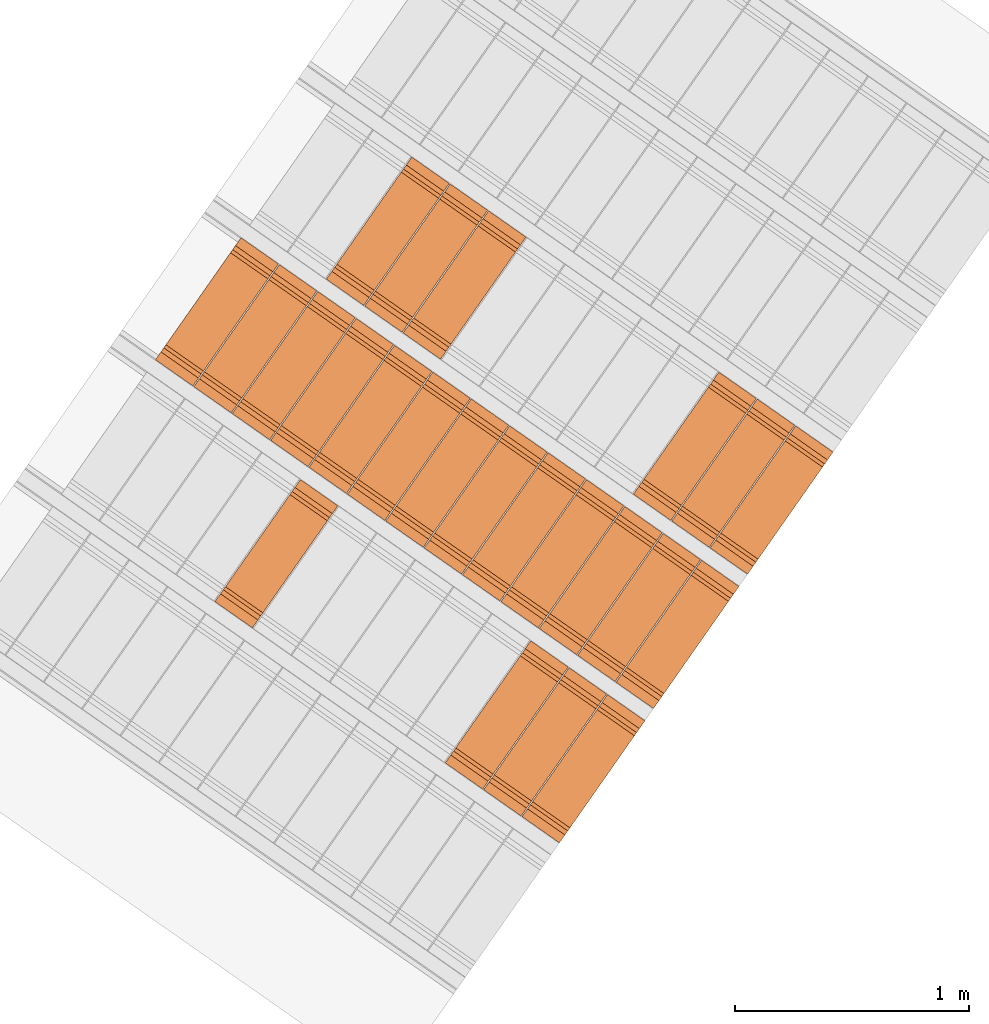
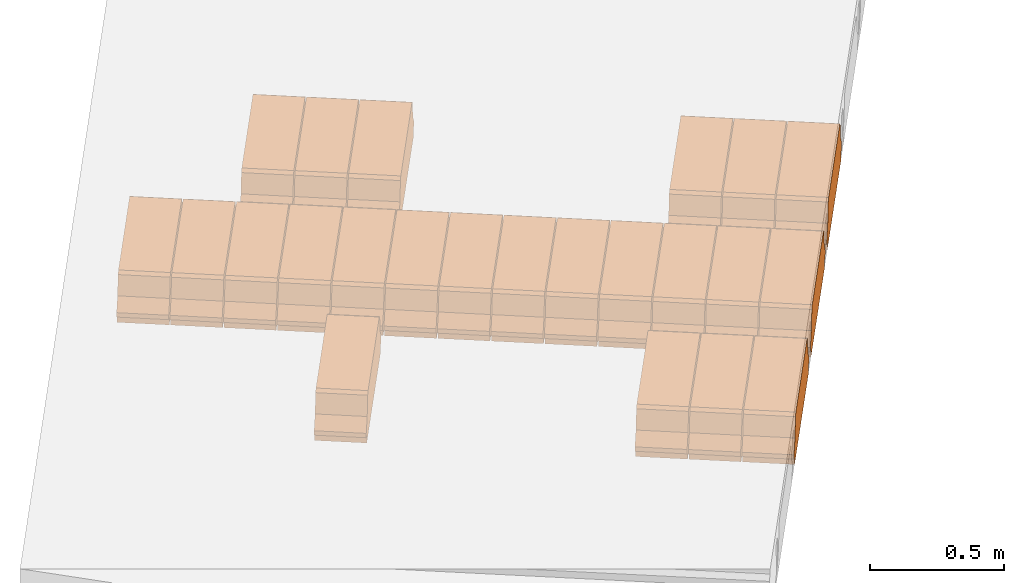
# One storey, part 3 of 8: 23 proxies.
"""IFC2X3 building model written with IfcOpenShell, lengths in metres."""

from ifc_helpers import new_model, entity, si_unit, converted_unit, derived_unit, direction, frame, origin, place, context, subcontext, project, spatial, polyline, outline, extrude, type_object, element, save


model = new_model("IFC2X3")

# Units and contexts
model_context = context("Model", 3, precision=1e-05, world=origin(), true_north=direction((6.123031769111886e-17, 1.0)))
body_context = subcontext(model_context, "Body", "Model", "MODEL_VIEW")
ifc_project = project(units=[si_unit("LENGTHUNIT", "METRE"), si_unit("AREAUNIT", "SQUARE_METRE"), si_unit("VOLUMEUNIT", "CUBIC_METRE"), converted_unit("PLANEANGLEUNIT", "DEGREE", entity("IfcPlaneAngleMeasure", 0.017453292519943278), si_unit("PLANEANGLEUNIT", "RADIAN"), dimensions=[0, 0, 0, 0, 0, 0, 0]), si_unit("MASSUNIT", "GRAM", prefix="KILO"), derived_unit("MASSDENSITYUNIT", [(si_unit("MASSUNIT", "GRAM", prefix="KILO"), 1), (si_unit("LENGTHUNIT", "METRE"), -3)]), derived_unit("IONCONCENTRATIONUNIT", [(si_unit("MASSUNIT", "GRAM", prefix="KILO"), 1), (si_unit("LENGTHUNIT", "METRE"), -3)]), derived_unit("MOMENTOFINERTIAUNIT", [(si_unit("LENGTHUNIT", "METRE"), 4)]), si_unit("TIMEUNIT", "SECOND"), si_unit("FREQUENCYUNIT", "HERTZ"), si_unit("THERMODYNAMICTEMPERATUREUNIT", "DEGREE_CELSIUS"), derived_unit("THERMALTRANSMITTANCEUNIT", [(si_unit("MASSUNIT", "GRAM", prefix="KILO"), 1), (si_unit("THERMODYNAMICTEMPERATUREUNIT", "KELVIN"), -1), (si_unit("TIMEUNIT", "SECOND"), -3)]), derived_unit("THERMALCONDUCTANCEUNIT", [(si_unit("MASSUNIT", "GRAM", prefix="KILO"), 1), (si_unit("THERMODYNAMICTEMPERATUREUNIT", "KELVIN"), -1), (si_unit("TIMEUNIT", "SECOND"), -3), (si_unit("LENGTHUNIT", "METRE"), 1)]), derived_unit("VOLUMETRICFLOWRATEUNIT", [(si_unit("LENGTHUNIT", "METRE", prefix="DECI"), 3), (si_unit("TIMEUNIT", "SECOND"), -1)]), derived_unit("MASSFLOWRATEUNIT", [(si_unit("MASSUNIT", "GRAM", prefix="KILO"), 1), (si_unit("TIMEUNIT", "SECOND"), -1)]), derived_unit("ROTATIONALFREQUENCYUNIT", [(si_unit("TIMEUNIT", "SECOND"), -1)]), si_unit("ELECTRICCURRENTUNIT", "AMPERE"), si_unit("ELECTRICVOLTAGEUNIT", "VOLT"), si_unit("POWERUNIT", "WATT"), si_unit("FORCEUNIT", "NEWTON", prefix="KILO"), si_unit("ILLUMINANCEUNIT", "LUX"), si_unit("LUMINOUSFLUXUNIT", "LUMEN"), si_unit("LUMINOUSINTENSITYUNIT", "CANDELA"), si_unit("ENERGYUNIT", "JOULE"), derived_unit("USERDEFINED", [(si_unit("MASSUNIT", "GRAM", prefix="KILO"), -1), (si_unit("LENGTHUNIT", "METRE"), -2), (si_unit("TIMEUNIT", "SECOND"), 3), (si_unit("LUMINOUSFLUXUNIT", "LUMEN"), 1)]), derived_unit("USERDEFINED", [(si_unit("MASSUNIT", "GRAM", prefix="KILO"), 1), (si_unit("TIMEUNIT", "SECOND"), -3), (si_unit("LENGTHUNIT", "METRE"), 3), (si_unit("ELECTRICCURRENTUNIT", "AMPERE"), -2)]), derived_unit("SOUNDPOWERUNIT", [(si_unit("MASSUNIT", "GRAM", prefix="KILO"), 1), (si_unit("TIMEUNIT", "SECOND"), -3), (si_unit("LENGTHUNIT", "METRE"), 2)]), derived_unit("SOUNDPRESSUREUNIT", [(si_unit("MASSUNIT", "GRAM", prefix="KILO"), 1), (si_unit("LENGTHUNIT", "METRE"), -1), (si_unit("TIMEUNIT", "SECOND"), -2)]), derived_unit("LINEARVELOCITYUNIT", [(si_unit("LENGTHUNIT", "METRE"), 1), (si_unit("TIMEUNIT", "SECOND"), -1)]), si_unit("PRESSUREUNIT", "PASCAL"), derived_unit("USERDEFINED", [(si_unit("MASSUNIT", "GRAM", prefix="KILO"), 1), (si_unit("LENGTHUNIT", "METRE"), -2), (si_unit("TIMEUNIT", "SECOND"), -2)]), derived_unit("LINEARFORCEUNIT", [(si_unit("MASSUNIT", "GRAM", prefix="KILO"), 1), (si_unit("TIMEUNIT", "SECOND"), -2)]), derived_unit("PLANARFORCEUNIT", [(si_unit("MASSUNIT", "GRAM", prefix="KILO"), 1), (si_unit("LENGTHUNIT", "METRE"), -1), (si_unit("TIMEUNIT", "SECOND"), -2)]), derived_unit("SPECIFICHEATCAPACITYUNIT", [(si_unit("THERMODYNAMICTEMPERATUREUNIT", "KELVIN"), -1), (si_unit("LENGTHUNIT", "METRE"), 2), (si_unit("TIMEUNIT", "SECOND"), -2)]), derived_unit("HEATFLUXDENSITYUNIT", [(si_unit("MASSUNIT", "GRAM", prefix="KILO"), 1), (si_unit("TIMEUNIT", "SECOND"), -3)]), derived_unit("HEATINGVALUEUNIT", [(si_unit("LENGTHUNIT", "METRE"), 2), (si_unit("TIMEUNIT", "SECOND"), -2)]), derived_unit("VAPORPERMEABILITYUNIT", [(si_unit("LENGTHUNIT", "METRE"), -1), (si_unit("TIMEUNIT", "SECOND"), 1)]), derived_unit("DYNAMICVISCOSITYUNIT", [(si_unit("MASSUNIT", "GRAM", prefix="KILO"), 1), (si_unit("TIMEUNIT", "SECOND"), -1), (si_unit("LENGTHUNIT", "METRE"), -1)]), derived_unit("THERMALEXPANSIONCOEFFICIENTUNIT", [(si_unit("THERMODYNAMICTEMPERATUREUNIT", "KELVIN"), -1)]), derived_unit("MODULUSOFELASTICITYUNIT", [(si_unit("MASSUNIT", "GRAM", prefix="KILO"), 1), (si_unit("LENGTHUNIT", "METRE"), -1), (si_unit("TIMEUNIT", "SECOND"), -2)]), derived_unit("ISOTHERMALMOISTURECAPACITYUNIT", [(si_unit("MASSUNIT", "GRAM", prefix="KILO"), -1), (si_unit("LENGTHUNIT", "METRE"), 3)]), derived_unit("MOISTUREDIFFUSIVITYUNIT", [(si_unit("TIMEUNIT", "SECOND"), -1), (si_unit("LENGTHUNIT", "METRE"), 2)]), derived_unit("MASSPERLENGTHUNIT", [(si_unit("MASSUNIT", "GRAM", prefix="KILO"), 1), (si_unit("LENGTHUNIT", "METRE"), -1)]), derived_unit("THERMALRESISTANCEUNIT", [(si_unit("MASSUNIT", "GRAM", prefix="KILO"), -1), (si_unit("TIMEUNIT", "SECOND"), 3), (si_unit("THERMODYNAMICTEMPERATUREUNIT", "KELVIN"), 1)]), derived_unit("ACCELERATIONUNIT", [(si_unit("LENGTHUNIT", "METRE"), 1), (si_unit("TIMEUNIT", "SECOND"), -2)]), derived_unit("ANGULARVELOCITYUNIT", [(si_unit("TIMEUNIT", "SECOND"), -1), (si_unit("PLANEANGLEUNIT", "RADIAN"), 1)]), derived_unit("LINEARSTIFFNESSUNIT", [(si_unit("MASSUNIT", "GRAM", prefix="KILO"), 1), (si_unit("TIMEUNIT", "SECOND"), -2)]), derived_unit("WARPINGCONSTANTUNIT", [(si_unit("LENGTHUNIT", "METRE"), 6)]), derived_unit("LINEARMOMENTUNIT", [(si_unit("MASSUNIT", "GRAM", prefix="KILO"), 1), (si_unit("LENGTHUNIT", "METRE"), 1), (si_unit("TIMEUNIT", "SECOND"), -2)]), derived_unit("TORQUEUNIT", [(si_unit("MASSUNIT", "GRAM", prefix="KILO"), 1), (si_unit("LENGTHUNIT", "METRE"), 2), (si_unit("TIMEUNIT", "SECOND"), -2)])], contexts=[model_context])

# Site, building, storey
site_placement = place(None, origin())
site = spatial("IfcSite", under=ifc_project, at=site_placement, Name="Default", CompositionType="ELEMENT")
building_placement = place(site_placement, origin())
building = spatial("IfcBuilding", under=site, at=building_placement, CompositionType="ELEMENT")
storey_placement = place(building_placement, frame((0.0, 0.0, 93.64)))
storey = spatial("IfcBuildingStorey", under=building, at=storey_placement, Name="Depósito_", CompositionType="ELEMENT", Elevation=93.64)

# Proxies
building_element_proxy_type_1 = type_object("IfcBuildingElementProxyType", Name="Bovedilla 2-1 (Paño 1)", PredefinedType="USERDEFINED")
proxy_1_placement = place(storey_placement, origin())
element("IfcBuildingElementProxy", 1, at=proxy_1_placement, inside=storey, type_object=building_element_proxy_type_1, Name="Bovedilla 2-1 (Paño 1)", ObjectType="FORM", context=body_context, shape_type="SweptSolid", body=[
    extrude(outline(polyline([(0.05816607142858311, -0.295), (0.08997232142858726, -0.295), (0.08997232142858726, 0.295), (0.05816607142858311, 0.295), (0.049972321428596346, 0.3179999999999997), (0.029972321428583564, 0.3179999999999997), (-0.018027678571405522, 0.27700000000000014), (-0.10002767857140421, 0.256), (-0.11002767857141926, 0.24), (-0.11002767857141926, -0.24), (-0.10002767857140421, -0.256), (-0.018027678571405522, -0.27700000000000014), (0.029972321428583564, -0.318), (0.049972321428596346, -0.318), (0.05816607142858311, -0.295)])), frame((1.6652472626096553, 2.18046896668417, 2.1381660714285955), z_axis=(0.8191520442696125, -0.5735764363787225, 0.0), x_axis=(0.0, 0.0, -1.0)), (0.0, 0.0, 1.0), 0.19500000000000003),
])
building_element_proxy_type_2 = type_object("IfcBuildingElementProxyType", Name="Bovedilla 2-2 (Paño 1)", PredefinedType="USERDEFINED")
proxy_2_placement = place(storey_placement, origin())
element("IfcBuildingElementProxy", 2, at=proxy_2_placement, inside=storey, type_object=building_element_proxy_type_2, Name="Bovedilla 2-2 (Paño 1)", ObjectType="FORM", context=body_context, shape_type="SweptSolid", body=[
    extrude(outline(polyline([(0.05816607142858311, -0.2949999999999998), (0.08997232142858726, -0.2949999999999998), (0.08997232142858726, 0.295), (0.05816607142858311, 0.295), (0.049972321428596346, 0.3180000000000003), (0.029972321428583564, 0.3180000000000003), (-0.018027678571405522, 0.27700000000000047), (-0.10002767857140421, 0.2560000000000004), (-0.11002767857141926, 0.24000000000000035), (-0.11002767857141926, -0.2399999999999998), (-0.10002767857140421, -0.2559999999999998), (-0.018027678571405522, -0.2769999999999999), (0.029972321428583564, -0.31799999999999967), (0.049972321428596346, -0.31799999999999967), (0.05816607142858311, -0.2949999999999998)])), frame((1.501416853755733, 2.295184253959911, 2.1381660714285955), z_axis=(0.8191520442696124, -0.5735764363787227, 0.0), x_axis=(0.0, 0.0, -1.0)), (0.0, 0.0, 1.0), 0.19500000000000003),
])
building_element_proxy_type_3 = type_object("IfcBuildingElementProxyType", Name="Bovedilla 2-3 (Paño 1)", PredefinedType="USERDEFINED")
proxy_3_placement = place(storey_placement, origin())
element("IfcBuildingElementProxy", 3, at=proxy_3_placement, inside=storey, type_object=building_element_proxy_type_3, Name="Bovedilla 2-3 (Paño 1)", ObjectType="FORM", context=body_context, shape_type="SweptSolid", body=[
    extrude(outline(polyline([(0.05816607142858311, -0.2950000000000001), (0.08997232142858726, -0.2950000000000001), (0.08997232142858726, 0.2949999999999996), (0.05816607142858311, 0.2949999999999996), (0.049972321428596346, 0.3179999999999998), (0.029972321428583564, 0.3179999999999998), (-0.018027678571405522, 0.2769999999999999), (-0.10002767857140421, 0.2559999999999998), (-0.11002767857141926, 0.2399999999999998), (-0.11002767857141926, -0.24000000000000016), (-0.10002767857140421, -0.25600000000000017), (-0.018027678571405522, -0.27700000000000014), (0.029972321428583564, -0.318), (0.049972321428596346, -0.318), (0.05816607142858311, -0.2950000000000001)])), frame((1.3375864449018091, 2.4098995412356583, 2.1381660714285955), z_axis=(0.8191520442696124, -0.5735764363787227, 0.0), x_axis=(0.0, 0.0, -1.0)), (0.0, 0.0, 1.0), 0.19500000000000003),
])
building_element_proxy_type_4 = type_object("IfcBuildingElementProxyType", Name="Bovedilla 2-9 (Paño 1)", PredefinedType="USERDEFINED")
proxy_4_placement = place(storey_placement, origin())
element("IfcBuildingElementProxy", 4, at=proxy_4_placement, inside=storey, type_object=building_element_proxy_type_4, Name="Bovedilla 2-9 (Paño 1)", ObjectType="FORM", context=body_context, shape_type="SweptSolid", body=[
    extrude(outline(polyline([(0.05816607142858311, -0.2950000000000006), (0.08997232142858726, -0.2950000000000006), (0.08997232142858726, 0.29499999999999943), (0.05816607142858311, 0.29499999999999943), (0.049972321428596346, 0.31799999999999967), (0.029972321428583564, 0.31799999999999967), (-0.018027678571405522, 0.27699999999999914), (-0.10002767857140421, 0.2559999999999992), (-0.11002767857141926, 0.2399999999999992), (-0.11002767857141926, -0.24000000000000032), (-0.10002767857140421, -0.25600000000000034), (-0.018027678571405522, -0.27700000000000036), (0.029972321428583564, -0.3180000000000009), (0.049972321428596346, -0.3180000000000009), (0.05816607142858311, -0.2950000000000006)])), frame((0.35460399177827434, 3.098191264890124, 2.1381660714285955), z_axis=(0.8191520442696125, -0.5735764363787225, 0.0), x_axis=(0.0, 0.0, -1.0)), (0.0, 0.0, 1.0), 0.19500000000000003),
])
building_element_proxy_type_5 = type_object("IfcBuildingElementProxyType", Name="Bovedilla 3-1 (Paño 1)", PredefinedType="USERDEFINED")
proxy_5_placement = place(storey_placement, origin())
element("IfcBuildingElementProxy", 5, at=proxy_5_placement, inside=storey, type_object=building_element_proxy_type_5, Name="Bovedilla 3-1 (Paño 1)", ObjectType="FORM", context=body_context, shape_type="SweptSolid", body=[
    extrude(outline(polyline([(0.05816607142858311, -0.295), (0.08997232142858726, -0.295), (0.08997232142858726, 0.295), (0.05816607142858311, 0.295), (0.049972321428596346, 0.3180000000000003), (0.029972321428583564, 0.3180000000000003), (-0.018027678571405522, 0.27699999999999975), (-0.10002767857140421, 0.2559999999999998), (-0.11002767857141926, 0.2399999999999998), (-0.11002767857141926, -0.2399999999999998), (-0.10002767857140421, -0.2559999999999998), (-0.018027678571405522, -0.27699999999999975), (0.029972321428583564, -0.3180000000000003), (0.049972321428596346, -0.3180000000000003), (0.05816607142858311, -0.295)])), frame((2.0667507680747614, 2.7538753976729, 2.1381660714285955), z_axis=(0.8191520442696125, -0.5735764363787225, 0.0), x_axis=(0.0, 0.0, -1.0)), (0.0, 0.0, 1.0), 0.19500000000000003),
])
building_element_proxy_type_6 = type_object("IfcBuildingElementProxyType", Name="Bovedilla 3-2 (Paño 1)", PredefinedType="USERDEFINED")
proxy_6_placement = place(storey_placement, origin())
element("IfcBuildingElementProxy", 6, at=proxy_6_placement, inside=storey, type_object=building_element_proxy_type_6, Name="Bovedilla 3-2 (Paño 1)", ObjectType="FORM", context=body_context, shape_type="SweptSolid", body=[
    extrude(outline(polyline([(0.05816607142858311, -0.295), (0.08997232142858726, -0.295), (0.08997232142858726, 0.295), (0.05816607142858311, 0.295), (0.049972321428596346, 0.3180000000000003), (0.029972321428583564, 0.3180000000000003), (-0.018027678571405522, 0.27699999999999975), (-0.10002767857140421, 0.2559999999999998), (-0.11002767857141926, 0.2399999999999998), (-0.11002767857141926, -0.2399999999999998), (-0.10002767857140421, -0.2559999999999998), (-0.018027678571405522, -0.27699999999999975), (0.029972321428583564, -0.3180000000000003), (0.049972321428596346, -0.3180000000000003), (0.05816607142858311, -0.295)])), frame((1.902920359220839, 2.868590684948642, 2.1381660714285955), z_axis=(0.8191520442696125, -0.5735764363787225, 0.0), x_axis=(0.0, 0.0, -1.0)), (0.0, 0.0, 1.0), 0.19500000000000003),
])
building_element_proxy_type_7 = type_object("IfcBuildingElementProxyType", Name="Bovedilla 3-3 (Paño 1)", PredefinedType="USERDEFINED")
proxy_7_placement = place(storey_placement, origin())
element("IfcBuildingElementProxy", 7, at=proxy_7_placement, inside=storey, type_object=building_element_proxy_type_7, Name="Bovedilla 3-3 (Paño 1)", ObjectType="FORM", context=body_context, shape_type="SweptSolid", body=[
    extrude(outline(polyline([(0.05816607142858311, -0.295), (0.08997232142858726, -0.295), (0.08997232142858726, 0.295), (0.05816607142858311, 0.295), (0.049972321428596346, 0.3180000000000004), (0.029972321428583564, 0.3180000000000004), (-0.018027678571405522, 0.2769999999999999), (-0.10002767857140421, 0.2559999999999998), (-0.11002767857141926, 0.2399999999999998), (-0.11002767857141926, -0.2399999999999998), (-0.10002767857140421, -0.2559999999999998), (-0.018027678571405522, -0.27699999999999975), (0.029972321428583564, -0.3180000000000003), (0.049972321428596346, -0.3180000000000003), (0.05816607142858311, -0.295)])), frame((1.739089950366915, 2.983305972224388, 2.1381660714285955), z_axis=(0.8191520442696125, -0.5735764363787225, 0.0), x_axis=(0.0, 0.0, -1.0)), (0.0, 0.0, 1.0), 0.19500000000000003),
])
building_element_proxy_type_8 = type_object("IfcBuildingElementProxyType", Name="Bovedilla 3-4 (Paño 1)", PredefinedType="USERDEFINED")
proxy_8_placement = place(storey_placement, origin())
element("IfcBuildingElementProxy", 8, at=proxy_8_placement, inside=storey, type_object=building_element_proxy_type_8, Name="Bovedilla 3-4 (Paño 1)", ObjectType="FORM", context=body_context, shape_type="SweptSolid", body=[
    extrude(outline(polyline([(0.05816607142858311, -0.2949999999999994), (0.08997232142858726, -0.2949999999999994), (0.08997232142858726, 0.2950000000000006), (0.05816607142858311, 0.2950000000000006), (0.049972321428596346, 0.318000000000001), (0.029972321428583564, 0.318000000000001), (-0.018027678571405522, 0.27700000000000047), (-0.10002767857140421, 0.2560000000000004), (-0.11002767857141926, 0.24000000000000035), (-0.11002767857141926, -0.2399999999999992), (-0.10002767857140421, -0.2559999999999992), (-0.018027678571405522, -0.27699999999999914), (0.029972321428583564, -0.31799999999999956), (0.049972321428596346, -0.31799999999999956), (0.05816607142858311, -0.2949999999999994)])), frame((1.5752595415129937, 3.098021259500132, 2.1381660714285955), z_axis=(0.8191520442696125, -0.5735764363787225, 0.0), x_axis=(0.0, 0.0, -1.0)), (0.0, 0.0, 1.0), 0.19500000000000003),
])
building_element_proxy_type_9 = type_object("IfcBuildingElementProxyType", Name="Bovedilla 3-5 (Paño 1)", PredefinedType="USERDEFINED")
proxy_9_placement = place(storey_placement, origin())
element("IfcBuildingElementProxy", 9, at=proxy_9_placement, inside=storey, type_object=building_element_proxy_type_9, Name="Bovedilla 3-5 (Paño 1)", ObjectType="FORM", context=body_context, shape_type="SweptSolid", body=[
    extrude(outline(polyline([(0.05816607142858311, -0.295), (0.08997232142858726, -0.295), (0.08997232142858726, 0.295), (0.05816607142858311, 0.295), (0.049972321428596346, 0.3180000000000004), (0.029972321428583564, 0.3180000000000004), (-0.018027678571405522, 0.2769999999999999), (-0.10002767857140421, 0.2559999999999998), (-0.11002767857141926, 0.2399999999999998), (-0.11002767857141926, -0.2399999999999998), (-0.10002767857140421, -0.2559999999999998), (-0.018027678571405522, -0.27699999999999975), (0.029972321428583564, -0.3180000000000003), (0.049972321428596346, -0.3180000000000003), (0.05816607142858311, -0.295)])), frame((1.4114291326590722, 3.2127365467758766, 2.1381660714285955), z_axis=(0.8191520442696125, -0.5735764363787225, 0.0), x_axis=(0.0, 0.0, -1.0)), (0.0, 0.0, 1.0), 0.19500000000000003),
])
building_element_proxy_type_10 = type_object("IfcBuildingElementProxyType", Name="Bovedilla 3-6 (Paño 1)", PredefinedType="USERDEFINED")
proxy_10_placement = place(storey_placement, origin())
element("IfcBuildingElementProxy", 10, at=proxy_10_placement, inside=storey, type_object=building_element_proxy_type_10, Name="Bovedilla 3-6 (Paño 1)", ObjectType="FORM", context=body_context, shape_type="SweptSolid", body=[
    extrude(outline(polyline([(0.05816607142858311, -0.2949999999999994), (0.08997232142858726, -0.2949999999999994), (0.08997232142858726, 0.2950000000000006), (0.05816607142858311, 0.2950000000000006), (0.049972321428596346, 0.318000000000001), (0.029972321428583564, 0.318000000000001), (-0.018027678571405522, 0.27700000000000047), (-0.10002767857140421, 0.2560000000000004), (-0.11002767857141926, 0.24000000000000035), (-0.11002767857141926, -0.2399999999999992), (-0.10002767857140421, -0.2559999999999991), (-0.018027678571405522, -0.27699999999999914), (0.029972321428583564, -0.31799999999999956), (0.049972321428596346, -0.31799999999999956), (0.05816607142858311, -0.2949999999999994)])), frame((1.2475987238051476, 3.3274518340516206, 2.1381660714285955), z_axis=(0.8191520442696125, -0.5735764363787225, 0.0), x_axis=(0.0, 0.0, -1.0)), (0.0, 0.0, 1.0), 0.19500000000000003),
])
building_element_proxy_type_11 = type_object("IfcBuildingElementProxyType", Name="Bovedilla 3-7 (Paño 1)", PredefinedType="USERDEFINED")
proxy_11_placement = place(storey_placement, origin())
element("IfcBuildingElementProxy", 11, at=proxy_11_placement, inside=storey, type_object=building_element_proxy_type_11, Name="Bovedilla 3-7 (Paño 1)", ObjectType="FORM", context=body_context, shape_type="SweptSolid", body=[
    extrude(outline(polyline([(0.05816607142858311, -0.295), (0.08997232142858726, -0.295), (0.08997232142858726, 0.29499999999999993), (0.05816607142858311, 0.29499999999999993), (0.049972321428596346, 0.31800000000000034), (0.029972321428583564, 0.31800000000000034), (-0.018027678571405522, 0.2769999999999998), (-0.10002767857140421, 0.25599999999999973), (-0.11002767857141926, 0.23999999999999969), (-0.11002767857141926, -0.2399999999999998), (-0.10002767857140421, -0.2559999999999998), (-0.018027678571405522, -0.2769999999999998), (0.029972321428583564, -0.31800000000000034), (0.049972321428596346, -0.31800000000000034), (0.05816607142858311, -0.295)])), frame((1.0837683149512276, 3.4421671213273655, 2.1381660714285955), z_axis=(0.8191520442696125, -0.5735764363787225, 0.0), x_axis=(0.0, 0.0, -1.0)), (0.0, 0.0, 1.0), 0.19500000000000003),
])
building_element_proxy_type_12 = type_object("IfcBuildingElementProxyType", Name="Bovedilla 3-8 (Paño 1)", PredefinedType="USERDEFINED")
proxy_12_placement = place(storey_placement, origin())
element("IfcBuildingElementProxy", 12, at=proxy_12_placement, inside=storey, type_object=building_element_proxy_type_12, Name="Bovedilla 3-8 (Paño 1)", ObjectType="FORM", context=body_context, shape_type="SweptSolid", body=[
    extrude(outline(polyline([(0.05816607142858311, -0.29499999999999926), (0.08997232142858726, -0.29499999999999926), (0.08997232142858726, 0.29500000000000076), (0.05816607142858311, 0.29500000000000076), (0.049972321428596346, 0.318000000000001), (0.029972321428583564, 0.318000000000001), (-0.018027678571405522, 0.27700000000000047), (-0.10002767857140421, 0.2560000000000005), (-0.11002767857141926, 0.24000000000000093), (-0.11002767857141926, -0.23999999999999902), (-0.10002767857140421, -0.25599999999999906), (-0.018027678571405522, -0.2769999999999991), (0.029972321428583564, -0.3179999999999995), (0.049972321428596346, -0.3179999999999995), (0.05816607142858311, -0.29499999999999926)])), frame((0.9199379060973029, 3.5568824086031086, 2.1381660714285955), z_axis=(0.8191520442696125, -0.5735764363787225, 0.0), x_axis=(0.0, 0.0, -1.0)), (0.0, 0.0, 1.0), 0.19500000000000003),
])
building_element_proxy_type_13 = type_object("IfcBuildingElementProxyType", Name="Bovedilla 3-9 (Paño 1)", PredefinedType="USERDEFINED")
proxy_13_placement = place(storey_placement, origin())
element("IfcBuildingElementProxy", 13, at=proxy_13_placement, inside=storey, type_object=building_element_proxy_type_13, Name="Bovedilla 3-9 (Paño 1)", ObjectType="FORM", context=body_context, shape_type="SweptSolid", body=[
    extrude(outline(polyline([(0.05816607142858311, -0.2950000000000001), (0.08997232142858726, -0.2950000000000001), (0.08997232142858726, 0.295), (0.05816607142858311, 0.295), (0.049972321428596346, 0.3180000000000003), (0.029972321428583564, 0.3180000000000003), (-0.018027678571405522, 0.27699999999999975), (-0.10002767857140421, 0.25599999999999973), (-0.11002767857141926, 0.2399999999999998), (-0.11002767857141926, -0.2399999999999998), (-0.10002767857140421, -0.25599999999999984), (-0.018027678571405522, -0.27699999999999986), (0.029972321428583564, -0.3180000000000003), (0.049972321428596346, -0.3180000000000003), (0.05816607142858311, -0.2950000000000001)])), frame((0.7561074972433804, 3.671597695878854, 2.1381660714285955), z_axis=(0.8191520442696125, -0.5735764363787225, 0.0), x_axis=(0.0, 0.0, -1.0)), (0.0, 0.0, 1.0), 0.19500000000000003),
])
building_element_proxy_type_14 = type_object("IfcBuildingElementProxyType", Name="Bovedilla 3-10 (Paño 1)", PredefinedType="USERDEFINED")
proxy_14_placement = place(storey_placement, origin())
element("IfcBuildingElementProxy", 14, at=proxy_14_placement, inside=storey, type_object=building_element_proxy_type_14, Name="Bovedilla 3-10 (Paño 1)", ObjectType="FORM", context=body_context, shape_type="SweptSolid", body=[
    extrude(outline(polyline([(0.05816607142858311, -0.29499999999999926), (0.08997232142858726, -0.29499999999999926), (0.08997232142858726, 0.29500000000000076), (0.05816607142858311, 0.29500000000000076), (0.049972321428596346, 0.318000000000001), (0.029972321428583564, 0.318000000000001), (-0.018027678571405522, 0.27700000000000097), (-0.10002767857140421, 0.25600000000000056), (-0.11002767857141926, 0.24000000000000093), (-0.11002767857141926, -0.23999999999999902), (-0.10002767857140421, -0.25599999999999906), (-0.018027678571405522, -0.2769999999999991), (0.029972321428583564, -0.31799999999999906), (0.049972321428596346, -0.31799999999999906), (0.05816607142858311, -0.29499999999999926)])), frame((0.5922770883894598, 3.786312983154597, 2.1381660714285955), z_axis=(0.8191520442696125, -0.5735764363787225, 0.0), x_axis=(0.0, 0.0, -1.0)), (0.0, 0.0, 1.0), 0.19500000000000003),
])
building_element_proxy_type_15 = type_object("IfcBuildingElementProxyType", Name="Bovedilla 3-11 (Paño 1)", PredefinedType="USERDEFINED")
proxy_15_placement = place(storey_placement, origin())
element("IfcBuildingElementProxy", 15, at=proxy_15_placement, inside=storey, type_object=building_element_proxy_type_15, Name="Bovedilla 3-11 (Paño 1)", ObjectType="FORM", context=body_context, shape_type="SweptSolid", body=[
    extrude(outline(polyline([(0.05816607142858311, -0.295), (0.08997232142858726, -0.295), (0.08997232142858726, 0.295), (0.05816607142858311, 0.295), (0.049972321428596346, 0.3180000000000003), (0.029972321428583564, 0.3180000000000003), (-0.018027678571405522, 0.2769999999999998), (-0.10002767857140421, 0.2559999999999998), (-0.11002767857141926, 0.2399999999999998), (-0.11002767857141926, -0.2399999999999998), (-0.10002767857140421, -0.2559999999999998), (-0.018027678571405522, -0.27699999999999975), (0.029972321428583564, -0.3180000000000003), (0.049972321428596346, -0.3180000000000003), (0.05816607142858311, -0.295)])), frame((0.4284466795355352, 3.9010282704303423, 2.1381660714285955), z_axis=(0.8191520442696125, -0.5735764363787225, 0.0), x_axis=(0.0, 0.0, -1.0)), (0.0, 0.0, 1.0), 0.19500000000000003),
])
building_element_proxy_type_16 = type_object("IfcBuildingElementProxyType", Name="Bovedilla 3-12 (Paño 1)", PredefinedType="USERDEFINED")
proxy_16_placement = place(storey_placement, origin())
element("IfcBuildingElementProxy", 16, at=proxy_16_placement, inside=storey, type_object=building_element_proxy_type_16, Name="Bovedilla 3-12 (Paño 1)", ObjectType="FORM", context=body_context, shape_type="SweptSolid", body=[
    extrude(outline(polyline([(0.05816607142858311, -0.29499999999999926), (0.08997232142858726, -0.29499999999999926), (0.08997232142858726, 0.29500000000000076), (0.05816607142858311, 0.29500000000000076), (0.049972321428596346, 0.318000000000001), (0.029972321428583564, 0.318000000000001), (-0.018027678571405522, 0.27700000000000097), (-0.10002767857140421, 0.25600000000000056), (-0.11002767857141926, 0.24000000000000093), (-0.11002767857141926, -0.23999999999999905), (-0.10002767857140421, -0.25599999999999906), (-0.018027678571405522, -0.2769999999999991), (0.029972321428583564, -0.31799999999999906), (0.049972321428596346, -0.31799999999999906), (0.05816607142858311, -0.29499999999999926)])), frame((0.2646162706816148, 4.015743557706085, 2.1381660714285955), z_axis=(0.8191520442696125, -0.5735764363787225, 0.0), x_axis=(0.0, 0.0, -1.0)), (0.0, 0.0, 1.0), 0.19500000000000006),
])
building_element_proxy_type_17 = type_object("IfcBuildingElementProxyType", Name="Bovedilla 3-13 (Paño 1)", PredefinedType="USERDEFINED")
proxy_17_placement = place(storey_placement, origin())
element("IfcBuildingElementProxy", 17, at=proxy_17_placement, inside=storey, type_object=building_element_proxy_type_17, Name="Bovedilla 3-13 (Paño 1)", ObjectType="FORM", context=body_context, shape_type="SweptSolid", body=[
    extrude(outline(polyline([(0.05816607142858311, -0.295), (0.08997232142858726, -0.295), (0.08997232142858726, 0.29500000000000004), (0.05816607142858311, 0.29500000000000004), (0.049972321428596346, 0.3180000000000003), (0.029972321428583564, 0.3180000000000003), (-0.018027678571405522, 0.27699999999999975), (-0.10002767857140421, 0.2559999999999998), (-0.11002767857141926, 0.2399999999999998), (-0.11002767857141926, -0.23999999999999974), (-0.10002767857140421, -0.2559999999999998), (-0.018027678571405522, -0.27699999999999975), (0.029972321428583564, -0.3180000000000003), (0.049972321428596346, -0.3180000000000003), (0.05816607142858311, -0.295)])), frame((0.10078586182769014, 4.130458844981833, 2.1381660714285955), z_axis=(0.8191520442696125, -0.5735764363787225, 0.0), x_axis=(0.0, 0.0, -1.0)), (0.0, 0.0, 1.0), 0.19500000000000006),
])
building_element_proxy_type_18 = type_object("IfcBuildingElementProxyType", Name="Bovedilla 4-1 (Paño 1)", PredefinedType="USERDEFINED")
proxy_18_placement = place(storey_placement, origin())
element("IfcBuildingElementProxy", 18, at=proxy_18_placement, inside=storey, type_object=building_element_proxy_type_18, Name="Bovedilla 4-1 (Paño 1)", ObjectType="FORM", context=body_context, shape_type="SweptSolid", body=[
    extrude(outline(polyline([(0.05816607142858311, -0.29500000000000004), (0.08997232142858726, -0.29500000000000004), (0.08997232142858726, 0.2949999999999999), (0.05816607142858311, 0.2949999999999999), (0.049972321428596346, 0.3180000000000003), (0.029972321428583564, 0.3180000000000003), (-0.018027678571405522, 0.27699999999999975), (-0.10002767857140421, 0.2559999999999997), (-0.11002767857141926, 0.2399999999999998), (-0.11002767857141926, -0.23999999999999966), (-0.10002767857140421, -0.2559999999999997), (-0.018027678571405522, -0.27699999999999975), (0.029972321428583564, -0.3180000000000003), (0.049972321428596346, -0.3180000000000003), (0.05816607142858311, -0.29500000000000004)])), frame((2.4682542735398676, 3.327281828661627, 2.1381660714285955), z_axis=(0.8191520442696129, -0.5735764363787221, 0.0), x_axis=(0.0, 0.0, -1.0)), (0.0, 0.0, 1.0), 0.19499999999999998),
])
building_element_proxy_type_19 = type_object("IfcBuildingElementProxyType", Name="Bovedilla 4-2 (Paño 1)", PredefinedType="USERDEFINED")
proxy_19_placement = place(storey_placement, origin())
element("IfcBuildingElementProxy", 19, at=proxy_19_placement, inside=storey, type_object=building_element_proxy_type_19, Name="Bovedilla 4-2 (Paño 1)", ObjectType="FORM", context=body_context, shape_type="SweptSolid", body=[
    extrude(outline(polyline([(0.05816607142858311, -0.2949999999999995), (0.08997232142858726, -0.2949999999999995), (0.08997232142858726, 0.2950000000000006), (0.05816607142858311, 0.2950000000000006), (0.049972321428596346, 0.31800000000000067), (0.029972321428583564, 0.31800000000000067), (-0.018027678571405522, 0.2770000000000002), (-0.10002767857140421, 0.2560000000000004), (-0.11002767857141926, 0.24000000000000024), (-0.11002767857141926, -0.23999999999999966), (-0.10002767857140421, -0.2559999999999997), (-0.018027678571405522, -0.2769999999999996), (0.029972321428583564, -0.31799999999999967), (0.049972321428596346, -0.31799999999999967), (0.05816607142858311, -0.2949999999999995)])), frame((2.304423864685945, 3.4419971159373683, 2.1381660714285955), z_axis=(0.8191520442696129, -0.5735764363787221, 0.0), x_axis=(0.0, 0.0, -1.0)), (0.0, 0.0, 1.0), 0.19499999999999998),
])
building_element_proxy_type_20 = type_object("IfcBuildingElementProxyType", Name="Bovedilla 4-3 (Paño 1)", PredefinedType="USERDEFINED")
proxy_20_placement = place(storey_placement, origin())
element("IfcBuildingElementProxy", 20, at=proxy_20_placement, inside=storey, type_object=building_element_proxy_type_20, Name="Bovedilla 4-3 (Paño 1)", ObjectType="FORM", context=body_context, shape_type="SweptSolid", body=[
    extrude(outline(polyline([(0.05816607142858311, -0.295), (0.08997232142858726, -0.295), (0.08997232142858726, 0.295), (0.05816607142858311, 0.295), (0.049972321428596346, 0.3180000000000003), (0.029972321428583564, 0.3180000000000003), (-0.018027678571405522, 0.27699999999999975), (-0.10002767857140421, 0.2559999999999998), (-0.11002767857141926, 0.2399999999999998), (-0.11002767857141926, -0.2399999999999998), (-0.10002767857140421, -0.2559999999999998), (-0.018027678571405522, -0.27699999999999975), (0.029972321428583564, -0.3180000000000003), (0.049972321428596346, -0.3180000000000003), (0.05816607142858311, -0.295)])), frame((2.1405934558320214, 3.5567124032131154, 2.1381660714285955), z_axis=(0.8191520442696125, -0.5735764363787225, 0.0), x_axis=(0.0, 0.0, -1.0)), (0.0, 0.0, 1.0), 0.19500000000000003),
])
building_element_proxy_type_21 = type_object("IfcBuildingElementProxyType", Name="Bovedilla 4-9 (Paño 1)", PredefinedType="USERDEFINED")
proxy_21_placement = place(storey_placement, origin())
element("IfcBuildingElementProxy", 21, at=proxy_21_placement, inside=storey, type_object=building_element_proxy_type_21, Name="Bovedilla 4-9 (Paño 1)", ObjectType="FORM", context=body_context, shape_type="SweptSolid", body=[
    extrude(outline(polyline([(0.05816607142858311, -0.2949999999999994), (0.08997232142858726, -0.2949999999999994), (0.08997232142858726, 0.2950000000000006), (0.05816607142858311, 0.2950000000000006), (0.049972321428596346, 0.318000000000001), (0.029972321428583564, 0.318000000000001), (-0.018027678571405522, 0.27700000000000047), (-0.10002767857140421, 0.2560000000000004), (-0.11002767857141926, 0.24000000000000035), (-0.11002767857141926, -0.2399999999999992), (-0.10002767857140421, -0.2559999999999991), (-0.018027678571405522, -0.27699999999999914), (0.029972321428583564, -0.31799999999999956), (0.049972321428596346, -0.31799999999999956), (0.05816607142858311, -0.2949999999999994)])), frame((1.157611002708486, 4.24500412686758, 2.1381660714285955), z_axis=(0.8191520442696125, -0.5735764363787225, 0.0), x_axis=(0.0, 0.0, -1.0)), (0.0, 0.0, 1.0), 0.19500000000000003),
])
building_element_proxy_type_22 = type_object("IfcBuildingElementProxyType", Name="Bovedilla 4-10 (Paño 1)", PredefinedType="USERDEFINED")
proxy_22_placement = place(storey_placement, origin())
element("IfcBuildingElementProxy", 22, at=proxy_22_placement, inside=storey, type_object=building_element_proxy_type_22, Name="Bovedilla 4-10 (Paño 1)", ObjectType="FORM", context=body_context, shape_type="SweptSolid", body=[
    extrude(outline(polyline([(0.05816607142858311, -0.295), (0.08997232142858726, -0.295), (0.08997232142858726, 0.295), (0.05816607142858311, 0.295), (0.049972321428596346, 0.3180000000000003), (0.029972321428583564, 0.3180000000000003), (-0.018027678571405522, 0.27699999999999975), (-0.10002767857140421, 0.25599999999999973), (-0.11002767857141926, 0.2399999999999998), (-0.11002767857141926, -0.2399999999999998), (-0.10002767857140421, -0.2559999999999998), (-0.018027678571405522, -0.2769999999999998), (0.029972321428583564, -0.31800000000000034), (0.049972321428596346, -0.31800000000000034), (0.05816607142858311, -0.295)])), frame((0.9937805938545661, 4.359719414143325, 2.1381660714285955), z_axis=(0.8191520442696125, -0.5735764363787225, 0.0), x_axis=(0.0, 0.0, -1.0)), (0.0, 0.0, 1.0), 0.19500000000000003),
])
building_element_proxy_type_23 = type_object("IfcBuildingElementProxyType", Name="Bovedilla 4-11 (Paño 1)", PredefinedType="USERDEFINED")
proxy_23_placement = place(storey_placement, origin())
element("IfcBuildingElementProxy", 23, at=proxy_23_placement, inside=storey, type_object=building_element_proxy_type_23, Name="Bovedilla 4-11 (Paño 1)", ObjectType="FORM", context=body_context, shape_type="SweptSolid", body=[
    extrude(outline(polyline([(0.05816607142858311, -0.2949999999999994), (0.08997232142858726, -0.2949999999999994), (0.08997232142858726, 0.2950000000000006), (0.05816607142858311, 0.2950000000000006), (0.049972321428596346, 0.3180000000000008), (0.029972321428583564, 0.3180000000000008), (-0.018027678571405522, 0.2770000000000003), (-0.10002767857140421, 0.2560000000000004), (-0.11002767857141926, 0.24000000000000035), (-0.11002767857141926, -0.23999999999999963), (-0.10002767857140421, -0.2559999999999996), (-0.018027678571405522, -0.27699999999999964), (0.029972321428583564, -0.3179999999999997), (0.049972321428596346, -0.3179999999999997), (0.05816607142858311, -0.2949999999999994)])), frame((0.8299501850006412, 4.474434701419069, 2.1381660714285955), z_axis=(0.8191520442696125, -0.5735764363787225, 0.0), x_axis=(0.0, 0.0, -1.0)), (0.0, 0.0, 1.0), 0.19500000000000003),
])

save(model, "model.ifc")
